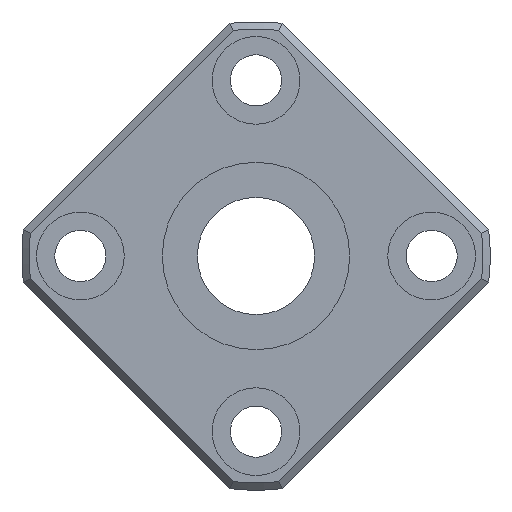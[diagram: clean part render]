
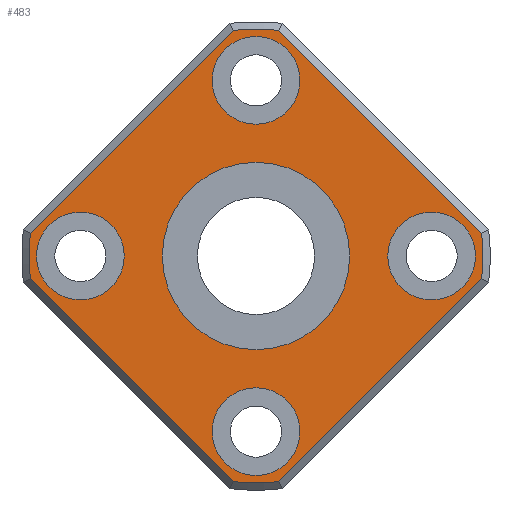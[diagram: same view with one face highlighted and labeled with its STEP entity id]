
A CAD part, left-side view. The second image highlights one B-rep face of the part: STEP entity #483.
In plain terms, the highlighted planar face has unit normal (-1, 0, 0).
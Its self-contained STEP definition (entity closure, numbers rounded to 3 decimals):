
#59=CARTESIAN_POINT('',(0.0,1.548,-15.422));
#60=VERTEX_POINT('',#59);
#68=CARTESIAN_POINT('',(0.0,15.422,-1.548));
#69=VERTEX_POINT('',#68);
#70=CARTESIAN_POINT('',(0.0,1.548,-15.422));
#71=DIRECTION('',(0.0,0.707,0.707));
#72=VECTOR('',#71,19.621);
#73=LINE('',#70,#72);
#74=EDGE_CURVE('',#60,#69,#73,.T.);
#101=CARTESIAN_POINT('',(0.0,15.422,1.548));
#102=VERTEX_POINT('',#101);
#103=CARTESIAN_POINT('',(0.0,0.0,0.0));
#104=DIRECTION('',(1.0,0.0,0.0));
#105=DIRECTION('',(0.0,0.0,1.0));
#106=AXIS2_PLACEMENT_3D('',#103,#104,#105);
#107=CIRCLE('',#106,15.5);
#108=EDGE_CURVE('',#69,#102,#107,.T.);
#134=CARTESIAN_POINT('',(0.0,1.548,15.422));
#135=VERTEX_POINT('',#134);
#136=CARTESIAN_POINT('',(0.0,15.422,1.548));
#137=DIRECTION('',(0.0,-0.707,0.707));
#138=VECTOR('',#137,19.621);
#139=LINE('',#136,#138);
#140=EDGE_CURVE('',#102,#135,#139,.T.);
#167=CARTESIAN_POINT('',(0.0,-1.548,15.422));
#168=VERTEX_POINT('',#167);
#169=CARTESIAN_POINT('',(0.0,0.0,0.0));
#170=DIRECTION('',(1.0,0.0,0.0));
#171=DIRECTION('',(0.0,0.0,1.0));
#172=AXIS2_PLACEMENT_3D('',#169,#170,#171);
#173=CIRCLE('',#172,15.5);
#174=EDGE_CURVE('',#135,#168,#173,.T.);
#200=CARTESIAN_POINT('',(0.0,-15.422,1.548));
#201=VERTEX_POINT('',#200);
#202=CARTESIAN_POINT('',(0.0,-1.548,15.422));
#203=DIRECTION('',(0.0,-0.707,-0.707));
#204=VECTOR('',#203,19.621);
#205=LINE('',#202,#204);
#206=EDGE_CURVE('',#168,#201,#205,.T.);
#233=CARTESIAN_POINT('',(0.0,-15.422,-1.548));
#234=VERTEX_POINT('',#233);
#235=CARTESIAN_POINT('',(0.0,0.0,0.0));
#236=DIRECTION('',(1.0,0.0,0.0));
#237=DIRECTION('',(0.0,0.0,1.0));
#238=AXIS2_PLACEMENT_3D('',#235,#236,#237);
#239=CIRCLE('',#238,15.5);
#240=EDGE_CURVE('',#201,#234,#239,.T.);
#266=CARTESIAN_POINT('',(0.0,-1.548,-15.422));
#267=VERTEX_POINT('',#266);
#268=CARTESIAN_POINT('',(0.0,-15.422,-1.548));
#269=DIRECTION('',(0.0,0.707,-0.707));
#270=VECTOR('',#269,19.621);
#271=LINE('',#268,#270);
#272=EDGE_CURVE('',#234,#267,#271,.T.);
#297=CARTESIAN_POINT('',(0.0,0.0,0.0));
#298=DIRECTION('',(1.0,0.0,0.0));
#299=DIRECTION('',(0.0,0.0,-1.0));
#300=AXIS2_PLACEMENT_3D('',#297,#298,#299);
#301=CIRCLE('',#300,15.5);
#302=EDGE_CURVE('',#267,#60,#301,.T.);
#413=CARTESIAN_POINT('',(0.0,0.0,7.2));
#414=DIRECTION('',(-1.0,0.0,0.0));
#415=DIRECTION('',(0.0,0.0,1.0));
#416=AXIS2_PLACEMENT_3D('',#413,#414,#415);
#417=PLANE('',#416);
#418=ORIENTED_EDGE('',*,*,#74,.F.);
#419=ORIENTED_EDGE('',*,*,#302,.F.);
#420=ORIENTED_EDGE('',*,*,#272,.F.);
#421=ORIENTED_EDGE('',*,*,#240,.F.);
#422=ORIENTED_EDGE('',*,*,#206,.F.);
#423=ORIENTED_EDGE('',*,*,#174,.F.);
#424=ORIENTED_EDGE('',*,*,#140,.F.);
#425=ORIENTED_EDGE('',*,*,#108,.F.);
#426=EDGE_LOOP('',(#418,#419,#420,#421,#422,#423,#424,#425));
#427=FACE_OUTER_BOUND('',#426,.T.);
#428=CARTESIAN_POINT('',(0.0,0.0,6.4));
#429=VERTEX_POINT('',#428);
#430=CARTESIAN_POINT('',(0.0,0.0,0.0));
#431=DIRECTION('',(-1.0,0.0,0.0));
#432=DIRECTION('',(0.0,0.0,1.0));
#433=AXIS2_PLACEMENT_3D('',#430,#431,#432);
#434=CIRCLE('',#433,6.4);
#435=EDGE_CURVE('',#429,#429,#434,.T.);
#436=ORIENTED_EDGE('',*,*,#435,.F.);
#437=EDGE_LOOP('',(#436));
#438=FACE_BOUND('',#437,.T.);
#439=CARTESIAN_POINT('',(0.0,-9.,0.));
#440=VERTEX_POINT('',#439);
#441=CARTESIAN_POINT('',(0.0,-12.,0.));
#442=DIRECTION('',(1.0,0.0,0.0));
#443=DIRECTION('',(0.0,1.0,0.0));
#444=AXIS2_PLACEMENT_3D('',#441,#442,#443);
#445=CIRCLE('',#444,3.);
#446=EDGE_CURVE('',#440,#440,#445,.T.);
#447=ORIENTED_EDGE('',*,*,#446,.T.);
#448=EDGE_LOOP('',(#447));
#449=FACE_BOUND('',#448,.T.);
#450=CARTESIAN_POINT('',(0.0,15.,0.));
#451=VERTEX_POINT('',#450);
#452=CARTESIAN_POINT('',(0.0,12.,0.));
#453=DIRECTION('',(1.0,0.0,0.0));
#454=DIRECTION('',(0.0,1.0,0.0));
#455=AXIS2_PLACEMENT_3D('',#452,#453,#454);
#456=CIRCLE('',#455,3.);
#457=EDGE_CURVE('',#451,#451,#456,.T.);
#458=ORIENTED_EDGE('',*,*,#457,.T.);
#459=EDGE_LOOP('',(#458));
#460=FACE_BOUND('',#459,.T.);
#461=CARTESIAN_POINT('',(0.0,3.,12.));
#462=VERTEX_POINT('',#461);
#463=CARTESIAN_POINT('',(0.0,0.,12.));
#464=DIRECTION('',(1.0,0.0,0.0));
#465=DIRECTION('',(0.0,1.0,0.0));
#466=AXIS2_PLACEMENT_3D('',#463,#464,#465);
#467=CIRCLE('',#466,3.);
#468=EDGE_CURVE('',#462,#462,#467,.T.);
#469=ORIENTED_EDGE('',*,*,#468,.T.);
#470=EDGE_LOOP('',(#469));
#471=FACE_BOUND('',#470,.T.);
#472=CARTESIAN_POINT('',(0.0,3.,-12.));
#473=VERTEX_POINT('',#472);
#474=CARTESIAN_POINT('',(0.0,0.,-12.));
#475=DIRECTION('',(1.0,0.0,0.0));
#476=DIRECTION('',(0.0,1.0,0.0));
#477=AXIS2_PLACEMENT_3D('',#474,#475,#476);
#478=CIRCLE('',#477,3.);
#479=EDGE_CURVE('',#473,#473,#478,.T.);
#480=ORIENTED_EDGE('',*,*,#479,.T.);
#481=EDGE_LOOP('',(#480));
#482=FACE_BOUND('',#481,.T.);
#483=ADVANCED_FACE('',(#427,#438,#449,#460,#471,#482),#417,.T.);
